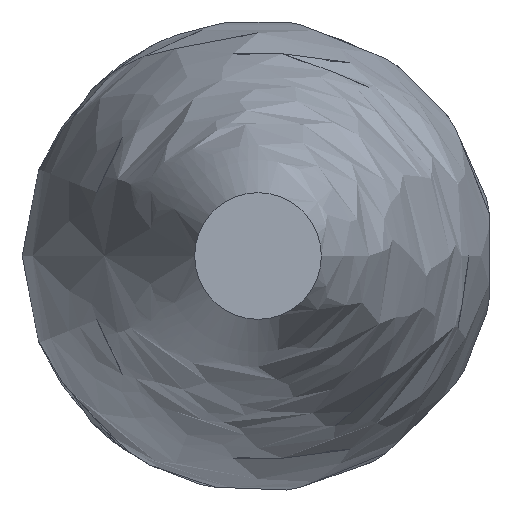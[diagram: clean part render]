
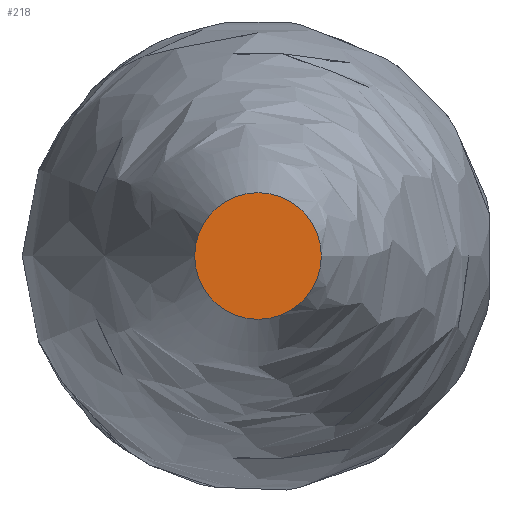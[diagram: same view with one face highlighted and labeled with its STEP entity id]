
A CAD part, left-side view. The second image highlights one B-rep face of the part: STEP entity #218.
In plain terms, the highlighted planar face has unit normal (-1, 0, 0).
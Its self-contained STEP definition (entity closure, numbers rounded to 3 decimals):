
#180=CARTESIAN_POINT('',(55.0,7.,0.0));
#181=VERTEX_POINT('',#180);
#199=CARTESIAN_POINT('',(55.0,0.0,0.0));
#200=DIRECTION('',(-1.0,0.0,0.0));
#201=DIRECTION('',(0.0,1.0,0.0));
#202=AXIS2_PLACEMENT_3D('',#199,#200,#201);
#203=CIRCLE('',#202,7.);
#204=EDGE_CURVE('',#181,#181,#203,.T.);
#210=CARTESIAN_POINT('',(55.0,3.5,0.0));
#211=DIRECTION('',(-1.0,0.0,0.0));
#212=DIRECTION('',(0.0,0.0,1.0));
#213=AXIS2_PLACEMENT_3D('',#210,#211,#212);
#214=PLANE('',#213);
#215=ORIENTED_EDGE('',*,*,#204,.T.);
#216=EDGE_LOOP('',(#215));
#217=FACE_OUTER_BOUND('',#216,.T.);
#218=ADVANCED_FACE('',(#217),#214,.T.);
